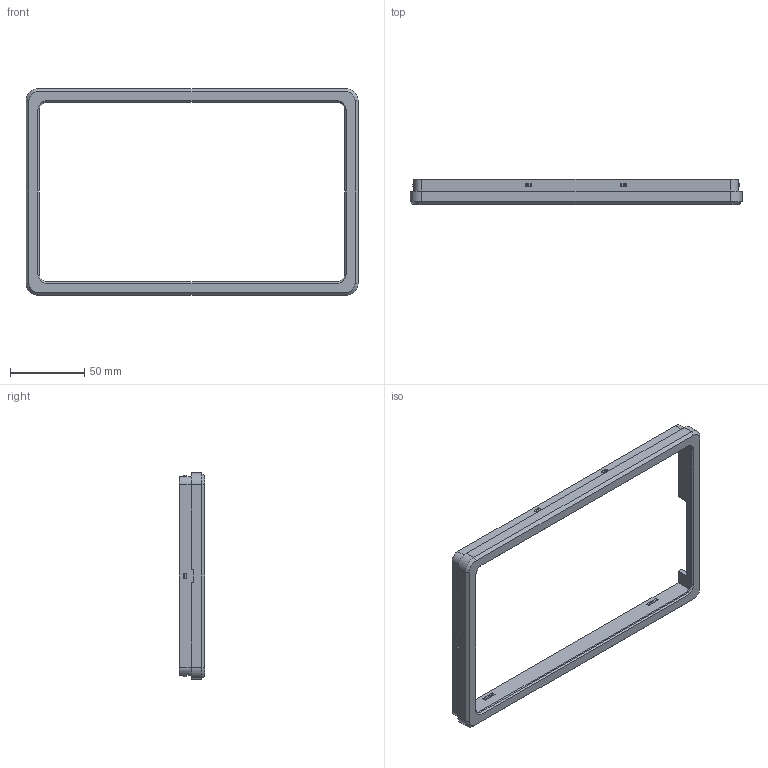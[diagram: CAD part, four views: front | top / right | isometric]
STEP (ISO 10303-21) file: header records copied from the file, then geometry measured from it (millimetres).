
FILE_DESCRIPTION(/* description */ ('STEP AP242','CAx-IF Rec.Pracs.---Representation and Presentation of Product Manufacturing Information (PMI)---4.0---2014-10-13','CAx-IF Rec.Pracs.---3D Tessellated Geometry---0.4---2014-09-14','2;1'),/* implementation_level */ '2;1');
FILE_NAME(/* name */ '687e693ef344454910d47518',/* time_stamp */ '2025-07-21T16:22:22Z',/* author */ (''),/* organization */ (''),/* preprocessor_version */ 'ST-DEVELOPER v20',/* originating_system */ 'ONSHAPE BY PTC INC, 1.201',/* authorisation */ ' ');
FILE_SCHEMA (('AP242_MANAGED_MODEL_BASED_3D_ENGINEERING_MIM_LF { 1 0 10303 442 1 1 4 }'));
Length unit declared in the file: metre
Products named in the file (1): Front Case
Bounding box: 223 x 17 x 138.61 mm (x, y, z)
Volume: 54755.2 mm3; surface area: 33747.8 mm2
Topology: 1 solids, 1 shells, 121 faces, 314 edges, 204 vertices
Faces by surface type: plane 85, cylinder 28, cone 8
Entity records: 3694 total; most frequent: CARTESIAN_POINT 640, ORIENTED_EDGE 628, DIRECTION 626, EDGE_CURVE 314, LINE 246, VECTOR 246, VERTEX_POINT 204, AXIS2_PLACEMENT_3D 190
